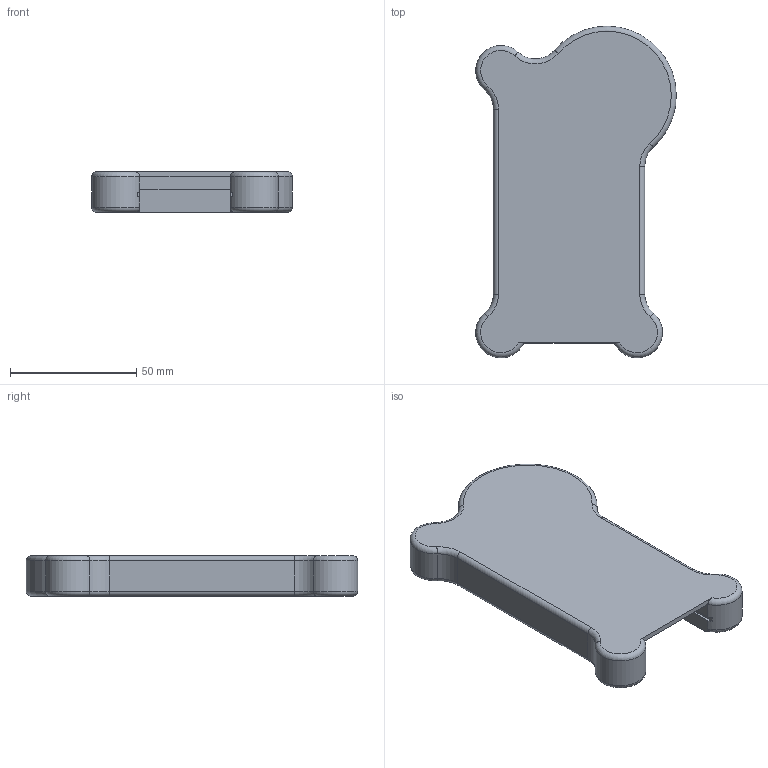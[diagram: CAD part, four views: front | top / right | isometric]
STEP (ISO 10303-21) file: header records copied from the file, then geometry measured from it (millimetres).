
FILE_DESCRIPTION(/* description */ ('','CAx-IF Rec.Pracs.---Representation and Presentation of Product Manufacturing Information (PMI)---4.0---2014-10-13'),/* implementation_level */ '2;1');
FILE_NAME(/* name */ 'esp32_c3_smini_scatola.stp',/* time_stamp */ '2026-06-08T19:23:21+02:00',/* author */ ('R5800u'),/* organization */ (''),/* preprocessor_version */ 'ST-DEVELOPER v20',/* originating_system */ 'Autodesk Inventor 2025',/* authorisation */ '');
FILE_SCHEMA (('AP242_MANAGED_MODEL_BASED_3D_ENGINEERING_MIM_LF { 1 0 10303 442 1 1 4 }'));
Length unit declared in the file: millimetre
Products named in the file (1): scatola_esp32_c3_mini2
Bounding box: 79.49 x 131.35 x 16 mm (x, y, z)
Volume: 64016.8 mm3; surface area: 25275 mm2
Topology: 1 solids, 1 shells, 72 faces, 179 edges, 107 vertices
Faces by surface type: plane 23, cylinder 22, torus 18, cone 7, bspline 2
Full cylindrical faces by diameter (mm): 1.8 x7
Entity records: 2239 total; most frequent: DIRECTION 420, CARTESIAN_POINT 401, ORIENTED_EDGE 340, EDGE_CURVE 170, AXIS2_PLACEMENT_3D 168, VERTEX_POINT 107, LINE 84, VECTOR 84
